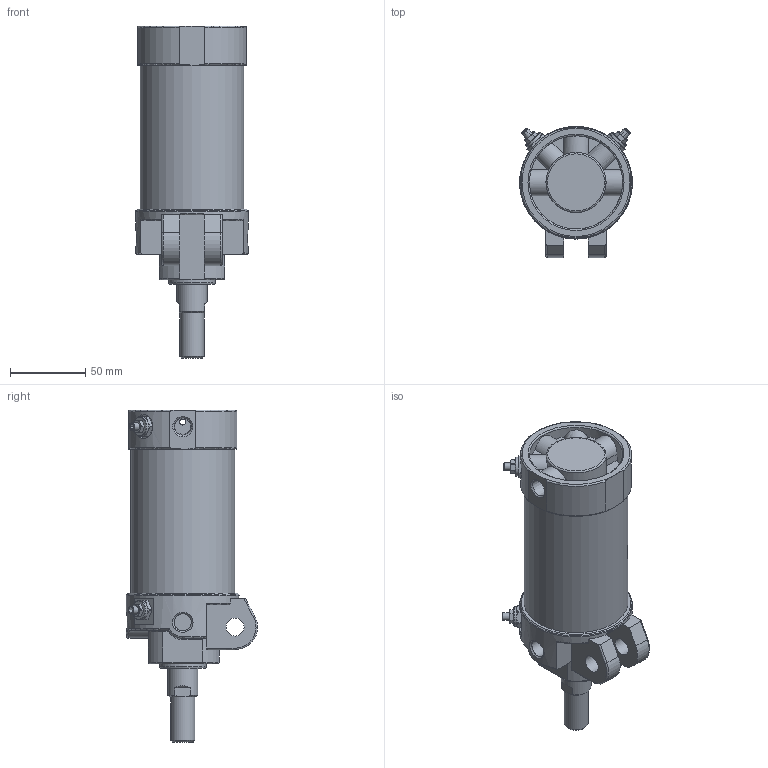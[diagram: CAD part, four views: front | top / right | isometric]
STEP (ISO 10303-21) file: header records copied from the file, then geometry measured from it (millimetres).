
FILE_DESCRIPTION((''),'2;1');
FILE_NAME('I:\3D電子目錄\氣缸\DCK\DCK\DCK-1A-63x50.stp','2008-02-26T15:10:57',('Administrator'),(''),'Autodesk Inventor 11','Autodesk Inventor 11','');
FILE_SCHEMA(('AUTOMOTIVE_DESIGN { 1 0 10303 214 1 1 1 1 }'));
Length unit declared in the file: millimetre
Products named in the file (6): DCK-1A-63; 緩衝針; 緩衝針-1; 緩衝針-201; 緩衝針-3
Assembly tree (8 placements, depth 3):
  DCK-1A-63
    DCK-1A-63
    緩衝針  x4
      緩衝針-1
      緩衝針-201
      緩衝針-3
Bounding box: 75 x 87.29 x 221 mm (x, y, z)
Volume: 324525.5 mm3; surface area: 115025.2 mm2
Topology: 16 solids, 16 shells, 590 faces, 1297 edges, 807 vertices
Faces by surface type: plane 219, cylinder 167, cone 131, torus 42, bspline 31
Full cylindrical faces by diameter (mm): 2 x1, 3 x2, 3.8 x2, 4 x6, 4.6 x4, 5 x8, 5.1 x4, 5.2 x12, 5.5 x4, 7 x1, 7.25 x1, 7.9 x4, 8 x2, 11.3 x3, 12 x2, 12.8 x4, 16 x2, 20 x1, 21 x1, 22 x2, 23 x1, 24.7 x1, 26 x1, 27 x1, 28 x1, 29 x1, 31 x1, 33 x1, 62 x1, 62.7 x1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
Entity records: 12429 total; most frequent: CARTESIAN_POINT 5264, DIRECTION 1447, ORIENTED_EDGE 1314, EDGE_CURVE 657, AXIS2_PLACEMENT_3D 630, EDGE_LOOP 509, VERTEX_POINT 472, FACE_OUTER_BOUND 341
